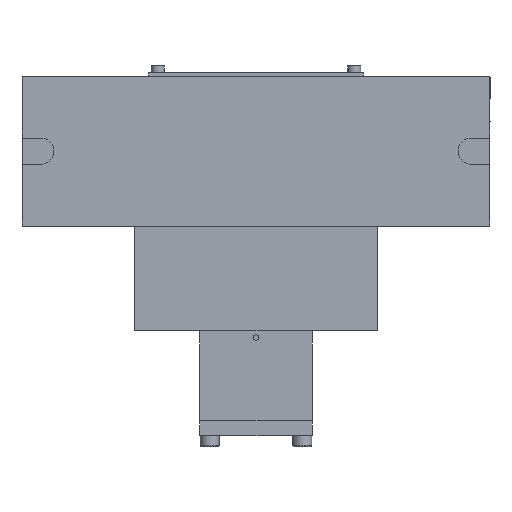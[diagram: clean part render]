
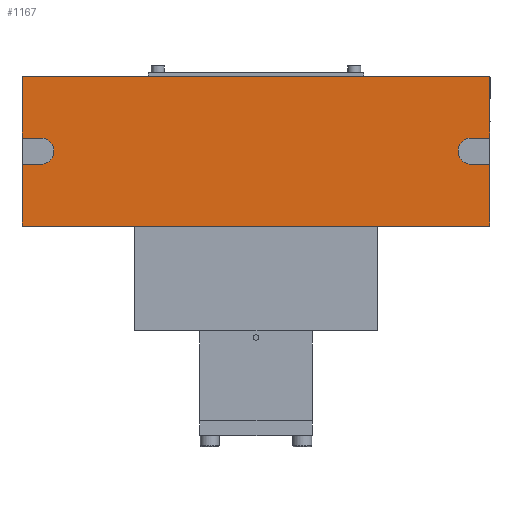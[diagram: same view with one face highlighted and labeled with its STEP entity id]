
A CAD part, front view. The second image highlights one B-rep face of the part: STEP entity #1167.
In plain terms, the highlighted planar face has unit normal (0, -1, 0).
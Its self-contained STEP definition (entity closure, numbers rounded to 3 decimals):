
#901=CARTESIAN_POINT('',(199.981,-38.774,0.0));
#902=VERTEX_POINT('',#901);
#909=CARTESIAN_POINT('',(-50.019,-38.774,0.0));
#910=VERTEX_POINT('',#909);
#911=CARTESIAN_POINT('',(199.981,-38.774,0.0));
#912=DIRECTION('',(-1.0,0.0,0.0));
#913=VECTOR('',#912,250.0);
#914=LINE('',#911,#913);
#915=EDGE_CURVE('',#902,#910,#914,.T.);
#1039=CARTESIAN_POINT('',(-50.019,-38.774,80.0));
#1040=VERTEX_POINT('',#1039);
#1047=CARTESIAN_POINT('',(17.481,-38.774,80.));
#1048=VERTEX_POINT('',#1047);
#1049=CARTESIAN_POINT('',(17.481,-38.774,80.0));
#1050=DIRECTION('',(-1.0,0.0,0.0));
#1051=VECTOR('',#1050,67.5);
#1052=LINE('',#1049,#1051);
#1053=EDGE_CURVE('',#1048,#1040,#1052,.T.);
#1064=CARTESIAN_POINT('',(199.981,-38.774,0.0));
#1065=DIRECTION('',(0.0,-1.0,0.0));
#1066=DIRECTION('',(0.0,0.0,-1.0));
#1067=AXIS2_PLACEMENT_3D('',#1064,#1065,#1066);
#1068=PLANE('',#1067);
#1069=ORIENTED_EDGE('',*,*,#1053,.T.);
#1070=CARTESIAN_POINT('',(-50.019,-38.774,47.0));
#1071=VERTEX_POINT('',#1070);
#1072=CARTESIAN_POINT('',(-50.019,-38.774,47.0));
#1073=DIRECTION('',(0.0,0.0,1.0));
#1074=VECTOR('',#1073,33.0);
#1075=LINE('',#1072,#1074);
#1076=EDGE_CURVE('',#1071,#1040,#1075,.T.);
#1077=ORIENTED_EDGE('',*,*,#1076,.F.);
#1078=CARTESIAN_POINT('',(-40.019,-38.774,47.));
#1079=VERTEX_POINT('',#1078);
#1080=CARTESIAN_POINT('',(-50.019,-38.774,47.0));
#1081=DIRECTION('',(1.0,0.0,0.0));
#1082=VECTOR('',#1081,10.0);
#1083=LINE('',#1080,#1082);
#1084=EDGE_CURVE('',#1071,#1079,#1083,.T.);
#1085=ORIENTED_EDGE('',*,*,#1084,.T.);
#1086=CARTESIAN_POINT('',(-40.019,-38.774,33.));
#1087=VERTEX_POINT('',#1086);
#1088=CARTESIAN_POINT('',(-40.019,-38.774,40.0));
#1089=DIRECTION('',(0.0,1.0,0.0));
#1090=DIRECTION('',(0.0,0.0,-1.0));
#1091=AXIS2_PLACEMENT_3D('',#1088,#1089,#1090);
#1092=CIRCLE('',#1091,7.);
#1093=EDGE_CURVE('',#1079,#1087,#1092,.T.);
#1094=ORIENTED_EDGE('',*,*,#1093,.T.);
#1095=CARTESIAN_POINT('',(-50.019,-38.774,33.0));
#1096=VERTEX_POINT('',#1095);
#1097=CARTESIAN_POINT('',(-40.019,-38.774,33.));
#1098=DIRECTION('',(-1.0,0.0,0.0));
#1099=VECTOR('',#1098,10.0);
#1100=LINE('',#1097,#1099);
#1101=EDGE_CURVE('',#1087,#1096,#1100,.T.);
#1102=ORIENTED_EDGE('',*,*,#1101,.T.);
#1103=CARTESIAN_POINT('',(-50.019,-38.774,0.0));
#1104=DIRECTION('',(0.0,0.0,1.0));
#1105=VECTOR('',#1104,33.0);
#1106=LINE('',#1103,#1105);
#1107=EDGE_CURVE('',#910,#1096,#1106,.T.);
#1108=ORIENTED_EDGE('',*,*,#1107,.F.);
#1109=ORIENTED_EDGE('',*,*,#915,.F.);
#1110=CARTESIAN_POINT('',(199.981,-38.774,33.0));
#1111=VERTEX_POINT('',#1110);
#1112=CARTESIAN_POINT('',(199.981,-38.774,0.0));
#1113=DIRECTION('',(0.0,0.0,1.0));
#1114=VECTOR('',#1113,33.0);
#1115=LINE('',#1112,#1114);
#1116=EDGE_CURVE('',#902,#1111,#1115,.T.);
#1117=ORIENTED_EDGE('',*,*,#1116,.T.);
#1118=CARTESIAN_POINT('',(189.981,-38.774,33.0));
#1119=VERTEX_POINT('',#1118);
#1120=CARTESIAN_POINT('',(199.981,-38.774,33.0));
#1121=DIRECTION('',(-1.0,0.0,0.0));
#1122=VECTOR('',#1121,10.0);
#1123=LINE('',#1120,#1122);
#1124=EDGE_CURVE('',#1111,#1119,#1123,.T.);
#1125=ORIENTED_EDGE('',*,*,#1124,.T.);
#1126=CARTESIAN_POINT('',(189.981,-38.774,47.));
#1127=VERTEX_POINT('',#1126);
#1128=CARTESIAN_POINT('',(189.981,-38.774,40.0));
#1129=DIRECTION('',(0.0,1.0,0.0));
#1130=DIRECTION('',(0.0,0.0,1.0));
#1131=AXIS2_PLACEMENT_3D('',#1128,#1129,#1130);
#1132=CIRCLE('',#1131,7.);
#1133=EDGE_CURVE('',#1119,#1127,#1132,.T.);
#1134=ORIENTED_EDGE('',*,*,#1133,.T.);
#1135=CARTESIAN_POINT('',(199.981,-38.774,47.0));
#1136=VERTEX_POINT('',#1135);
#1137=CARTESIAN_POINT('',(189.981,-38.774,47.));
#1138=DIRECTION('',(1.0,0.0,0.0));
#1139=VECTOR('',#1138,10.0);
#1140=LINE('',#1137,#1139);
#1141=EDGE_CURVE('',#1127,#1136,#1140,.T.);
#1142=ORIENTED_EDGE('',*,*,#1141,.T.);
#1143=CARTESIAN_POINT('',(199.981,-38.774,80.0));
#1144=VERTEX_POINT('',#1143);
#1145=CARTESIAN_POINT('',(199.981,-38.774,47.0));
#1146=DIRECTION('',(0.0,0.0,1.0));
#1147=VECTOR('',#1146,33.0);
#1148=LINE('',#1145,#1147);
#1149=EDGE_CURVE('',#1136,#1144,#1148,.T.);
#1150=ORIENTED_EDGE('',*,*,#1149,.T.);
#1151=CARTESIAN_POINT('',(132.481,-38.774,80.));
#1152=VERTEX_POINT('',#1151);
#1153=CARTESIAN_POINT('',(199.981,-38.774,80.0));
#1154=DIRECTION('',(-1.0,0.0,0.0));
#1155=VECTOR('',#1154,67.5);
#1156=LINE('',#1153,#1155);
#1157=EDGE_CURVE('',#1144,#1152,#1156,.T.);
#1158=ORIENTED_EDGE('',*,*,#1157,.T.);
#1159=CARTESIAN_POINT('',(132.481,-38.774,80.0));
#1160=DIRECTION('',(-1.0,0.0,0.0));
#1161=VECTOR('',#1160,115.);
#1162=LINE('',#1159,#1161);
#1163=EDGE_CURVE('',#1152,#1048,#1162,.T.);
#1164=ORIENTED_EDGE('',*,*,#1163,.T.);
#1165=EDGE_LOOP('',(#1069,#1077,#1085,#1094,#1102,#1108,#1109,#1117,#1125,#1134,#1142,#1150,#1158,#1164));
#1166=FACE_OUTER_BOUND('',#1165,.T.);
#1167=ADVANCED_FACE('',(#1166),#1068,.T.);
